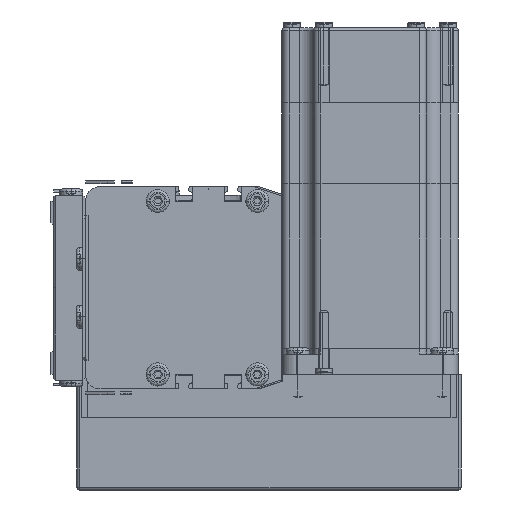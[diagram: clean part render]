
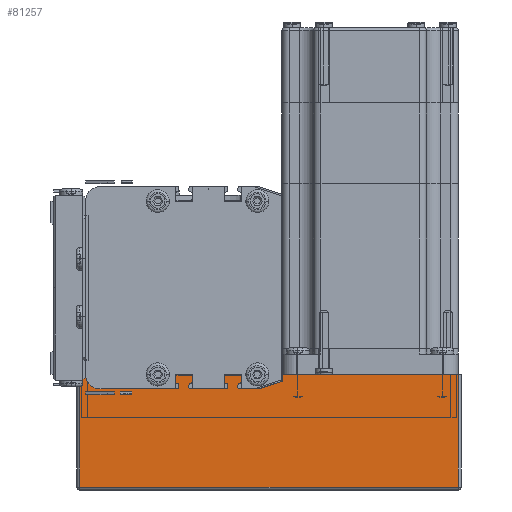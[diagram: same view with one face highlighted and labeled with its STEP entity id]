
A CAD part, left-side view. The second image highlights one B-rep face of the part: STEP entity #81257.
In plain terms, the highlighted planar face has unit normal (-1, 0, 0) as drawn and (0, 1, 0) by its records, which use the part's own axes.
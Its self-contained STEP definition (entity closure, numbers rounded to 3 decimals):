
#13731 = CARTESIAN_POINT ( 'NONE',  ( 132., 62., 0. ) ) ;
#13811 = DIRECTION ( 'NONE',  ( -1., 0., 0. ) ) ;
#13815 = CARTESIAN_POINT ( 'NONE',  ( 0., 62., 0. ) ) ;
#13836 = VECTOR ( 'NONE', #13811, 1000. ) ;
#13855 = LINE ( 'NONE', #13815, #13836 ) ;
#14119 = CARTESIAN_POINT ( 'NONE',  ( 1., 62., 39. ) ) ;
#14123 = CARTESIAN_POINT ( 'NONE',  ( 0., 62., 40. ) ) ;
#14141 = CARTESIAN_POINT ( 'NONE',  ( 1., 62., 0. ) ) ;
#14158 = DIRECTION ( 'NONE',  ( 1., 0., 0. ) ) ;
#14160 = VECTOR ( 'NONE', #14158, 1000. ) ;
#14162 = CARTESIAN_POINT ( 'NONE',  ( 0., 62., 39. ) ) ;
#14165 = CARTESIAN_POINT ( 'NONE',  ( 132., 62., 39. ) ) ;
#14167 = LINE ( 'NONE', #14162, #14160 ) ;
#14178 = AXIS2_PLACEMENT_3D ( 'NONE', #14123, #14184, #14191 ) ;
#14180 = DIRECTION ( 'NONE',  ( 0., 0., 1. ) ) ;
#14182 = VECTOR ( 'NONE', #14180, 1000. ) ;
#14184 = DIRECTION ( 'NONE',  ( 0., -1., 0. ) ) ;
#14191 = DIRECTION ( 'NONE',  ( 0., 0., -1. ) ) ;
#14195 = FACE_OUTER_BOUND ( 'NONE', #81118, .T. ) ;
#14201 = PLANE ( 'NONE',  #14178 ) ;
#14207 = CARTESIAN_POINT ( 'NONE',  ( 1., 62., 40. ) ) ;
#14209 = LINE ( 'NONE', #14207, #14182 ) ;
#14253 = DIRECTION ( 'NONE',  ( 0., 0., -1. ) ) ;
#14254 = VECTOR ( 'NONE', #14253, 1000. ) ;
#14275 = CARTESIAN_POINT ( 'NONE',  ( 132., 62., 40. ) ) ;
#14276 = LINE ( 'NONE', #14275, #14254 ) ;
#81041 = EDGE_CURVE ( 'NONE', #81045, #81216, #13855, .T. ) ;
#81045 = VERTEX_POINT ( 'NONE', #13731 ) ;
#81118 = EDGE_LOOP ( 'NONE', ( #81250, #81259, #81265, #81425 ) ) ;
#81216 = VERTEX_POINT ( 'NONE', #14141 ) ;
#81249 = VERTEX_POINT ( 'NONE', #14119 ) ;
#81250 = ORIENTED_EDGE ( 'NONE', *, *, #81262, .T. ) ;
#81253 = EDGE_CURVE ( 'NONE', #81216, #81249, #14209, .T. ) ;
#81257 = ADVANCED_FACE ( 'NONE', ( #14195 ), #14201, .F. ) ;
#81259 = ORIENTED_EDGE ( 'NONE', *, *, #81298, .T. ) ;
#81262 = EDGE_CURVE ( 'NONE', #81249, #81280, #14167, .T. ) ;
#81265 = ORIENTED_EDGE ( 'NONE', *, *, #81041, .T. ) ;
#81280 = VERTEX_POINT ( 'NONE', #14165 ) ;
#81298 = EDGE_CURVE ( 'NONE', #81280, #81045, #14276, .T. ) ;
#81425 = ORIENTED_EDGE ( 'NONE', *, *, #81253, .T. ) ;
